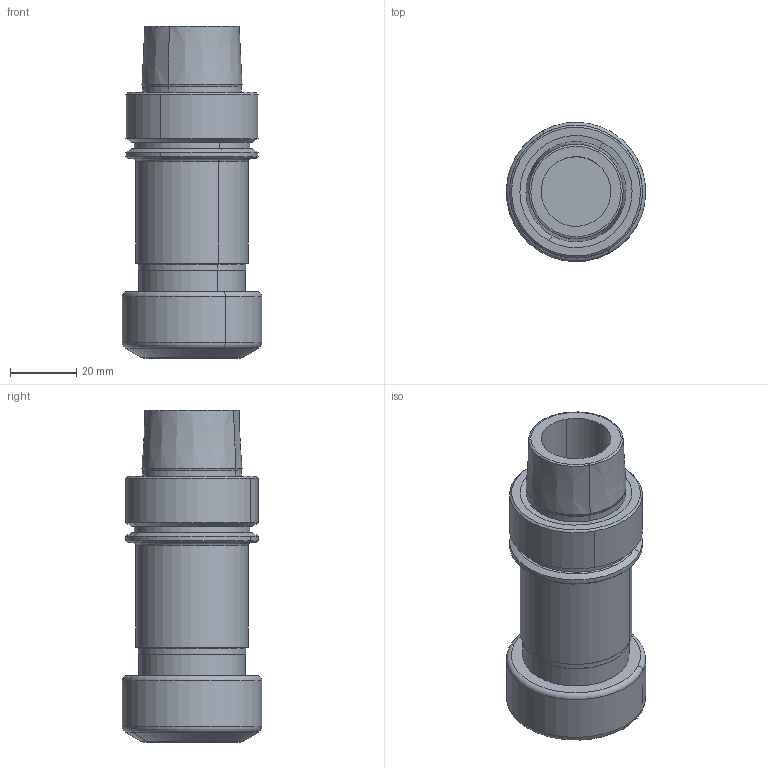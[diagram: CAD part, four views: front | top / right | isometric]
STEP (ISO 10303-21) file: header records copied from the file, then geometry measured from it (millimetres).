
FILE_DESCRIPTION(('CATIA V5 STEP','CAx-IF Rec.Pracs.--- Model Styling and Organization---1.2---2011-12-15'),'2;1');
FILE_NAME('\\nas01\drv1\utils\eitdev\rte\eit\transmagicconvert\db\out\635934516466391320\4503216-D-L-B.stp','2016-03-13T05:41:00+00:00',('none'),('none'),'CATIA Version 5 Release 21 SP 5 (IN-10)','CATIA V5 STEP AP214','none');
FILE_SCHEMA(('AUTOMOTIVE_DESIGN { 1 0 10303 214 1 1 1 1 }'));
Length unit declared in the file: millimetre
Products named in the file (1): HSK E 40 ER25X 80
Bounding box: 41.99 x 41.99 x 100 mm (x, y, z)
Volume: 73453.4 mm3; surface area: 19283.5 mm2
Topology: 1 solids, 1 shells, 72 faces, 150 edges, 87 vertices
Faces by surface type: cylinder 24, cone 22, torus 16, plane 10
Entity records: 1688 total; most frequent: ORIENTED_EDGE 296, CARTESIAN_POINT 279, DIRECTION 234, EDGE_CURVE 148, AXIS2_PLACEMENT_3D 146, CIRCLE 102, VERTEX_POINT 87, EDGE_LOOP 81
